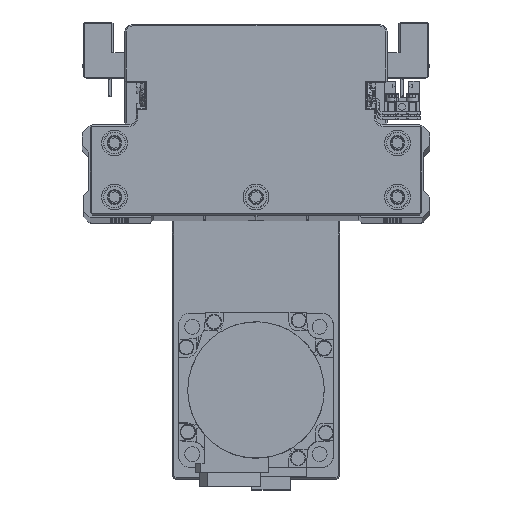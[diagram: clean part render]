
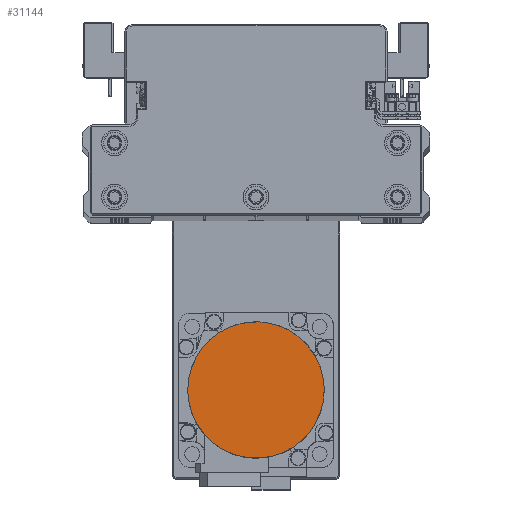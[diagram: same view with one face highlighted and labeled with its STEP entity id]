
A CAD part, top view. The second image highlights one B-rep face of the part: STEP entity #31144.
In plain terms, the highlighted planar face has unit normal (0, 0, 1) as drawn and (0, 0, -1) by its records, which use the part's own axes.
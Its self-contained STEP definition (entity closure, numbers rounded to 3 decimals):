
#1406 = EDGE_LOOP ( 'NONE', ( #1432, #33374 ) ) ;
#1432 = ORIENTED_EDGE ( 'NONE', *, *, #6188, .F. ) ;
#2046 = EDGE_CURVE ( 'NONE', #8513, #20188, #12406, .T. ) ;
#2137 = CARTESIAN_POINT ( 'NONE',  ( -11.744, -23.819, -109.7 ) ) ;
#2301 = FACE_OUTER_BOUND ( 'NONE', #1406, .T. ) ;
#2355 = CARTESIAN_POINT ( 'NONE',  ( 19.965, -17.512, -109.7 ) ) ;
#2724 = CARTESIAN_POINT ( 'NONE',  ( 23.819, 11.744, -109.7 ) ) ;
#2929 = CARTESIAN_POINT ( 'NONE',  ( -3.469, 26.329, -109.7 ) ) ;
#3145 = CARTESIAN_POINT ( 'NONE',  ( -26.329, 3.469, -109.7 ) ) ;
#3766 = CARTESIAN_POINT ( 'NONE',  ( -26.5, 0., -109.7 ) ) ;
#5271 = CARTESIAN_POINT ( 'NONE',  ( -17.512, -19.965, -109.7 ) ) ;
#5471 = CARTESIAN_POINT ( 'NONE',  ( 13.28, -22.998, -109.7 ) ) ;
#5848 = CARTESIAN_POINT ( 'NONE',  ( 26.329, 3.469, -109.7 ) ) ;
#6055 = CARTESIAN_POINT ( 'NONE',  ( 3.469, 26.329, -109.7 ) ) ;
#6188 = EDGE_CURVE ( 'NONE', #20188, #8513, #34516, .T. ) ;
#6257 = CARTESIAN_POINT ( 'NONE',  ( -23.819, 11.744, -109.7 ) ) ;
#8400 = CARTESIAN_POINT ( 'NONE',  ( -22.998, -13.28, -109.7 ) ) ;
#8513 = VERTEX_POINT ( 'NONE', #3766 ) ;
#8607 = CARTESIAN_POINT ( 'NONE',  ( 6.871, -25.652, -109.7 ) ) ;
#8801 = CARTESIAN_POINT ( 'NONE',  ( 26.5, -1.734, -109.7 ) ) ;
#9175 = CARTESIAN_POINT ( 'NONE',  ( 11.744, 23.819, -109.7 ) ) ;
#9385 = CARTESIAN_POINT ( 'NONE',  ( -19.965, 17.512, -109.7 ) ) ;
#11519 = CARTESIAN_POINT ( 'NONE',  ( -25.652, -6.871, -109.7 ) ) ;
#11734 = CARTESIAN_POINT ( 'NONE',  ( -1.734, -26.5, -109.7 ) ) ;
#11886 = DIRECTION ( 'NONE',  ( 1., 0., 0. ) ) ;
#11939 = CARTESIAN_POINT ( 'NONE',  ( 25.147, -8.539, -109.7 ) ) ;
#12295 = CARTESIAN_POINT ( 'NONE',  ( 17.512, 19.965, -109.7 ) ) ;
#12406 = B_SPLINE_CURVE_WITH_KNOTS ( 'NONE', 3,
 ( #14658, #27386, #40100, #11519, #24253, #36994, #8400, #21137, #33876, #5271, #17990, #30745, #2137, #14851, #27587, #40307, #11734, #24469, #37199, #8607, #21339, #34074, #5471, #18187, #30946, #2355, #15065, #27807, #40524, #11939, #24676, #37394, #8801, #21537 ),
 .UNSPECIFIED., .F., .F.,
 ( 4, 2, 2, 2, 2, 2, 2, 2, 2, 2, 2, 2, 2, 2, 2, 2, 4 ),
 ( 0., 0.063, 0.125, 0.188, 0.25, 0.312, 0.375, 0.437, 0.5, 0.562, 0.625, 0.687, 0.75, 0.813, 0.875, 0.938, 1. ),
 .UNSPECIFIED. ) ;
#12508 = CARTESIAN_POINT ( 'NONE',  ( -13.28, 22.998, -109.7 ) ) ;
#14658 = CARTESIAN_POINT ( 'NONE',  ( -26.5, 0., -109.7 ) ) ;
#14851 = CARTESIAN_POINT ( 'NONE',  ( -8.539, -25.147, -109.7 ) ) ;
#15013 = PLANE ( 'NONE',  #24462 ) ;
#15065 = CARTESIAN_POINT ( 'NONE',  ( 21.07, -16.165, -109.7 ) ) ;
#15422 = CARTESIAN_POINT ( 'NONE',  ( 22.998, 13.28, -109.7 ) ) ;
#15635 = CARTESIAN_POINT ( 'NONE',  ( -6.871, 25.652, -109.7 ) ) ;
#15850 = CARTESIAN_POINT ( 'NONE',  ( -26.5, 1.734, -109.7 ) ) ;
#17990 = CARTESIAN_POINT ( 'NONE',  ( -16.165, -21.07, -109.7 ) ) ;
#18187 = CARTESIAN_POINT ( 'NONE',  ( 16.165, -21.07, -109.7 ) ) ;
#18569 = CARTESIAN_POINT ( 'NONE',  ( 25.652, 6.871, -109.7 ) ) ;
#18766 = CARTESIAN_POINT ( 'NONE',  ( 1.734, 26.5, -109.7 ) ) ;
#18987 = CARTESIAN_POINT ( 'NONE',  ( -25.147, 8.539, -109.7 ) ) ;
#20188 = VERTEX_POINT ( 'NONE', #36099 ) ;
#21137 = CARTESIAN_POINT ( 'NONE',  ( -21.07, -16.165, -109.7 ) ) ;
#21339 = CARTESIAN_POINT ( 'NONE',  ( 8.539, -25.147, -109.7 ) ) ;
#21537 = CARTESIAN_POINT ( 'NONE',  ( 26.5, 0., -109.7 ) ) ;
#21708 = CARTESIAN_POINT ( 'NONE',  ( 26.5, 0., -109.7 ) ) ;
#21915 = CARTESIAN_POINT ( 'NONE',  ( 8.539, 25.147, -109.7 ) ) ;
#22119 = CARTESIAN_POINT ( 'NONE',  ( -21.07, 16.165, -109.7 ) ) ;
#24253 = CARTESIAN_POINT ( 'NONE',  ( -25.147, -8.539, -109.7 ) ) ;
#24462 = AXIS2_PLACEMENT_3D ( 'NONE', #27754, #40470, #11886 ) ;
#24469 = CARTESIAN_POINT ( 'NONE',  ( 1.734, -26.5, -109.7 ) ) ;
#24676 = CARTESIAN_POINT ( 'NONE',  ( 25.652, -6.871, -109.7 ) ) ;
#25049 = CARTESIAN_POINT ( 'NONE',  ( 16.165, 21.07, -109.7 ) ) ;
#25256 = CARTESIAN_POINT ( 'NONE',  ( -16.165, 21.07, -109.7 ) ) ;
#27386 = CARTESIAN_POINT ( 'NONE',  ( -26.5, -1.734, -109.7 ) ) ;
#27587 = CARTESIAN_POINT ( 'NONE',  ( -6.871, -25.652, -109.7 ) ) ;
#27754 = CARTESIAN_POINT ( 'NONE',  ( 0., 0., -109.7 ) ) ;
#27807 = CARTESIAN_POINT ( 'NONE',  ( 22.998, -13.28, -109.7 ) ) ;
#28165 = CARTESIAN_POINT ( 'NONE',  ( 21.07, 16.165, -109.7 ) ) ;
#28384 = CARTESIAN_POINT ( 'NONE',  ( -8.539, 25.147, -109.7 ) ) ;
#28598 = CARTESIAN_POINT ( 'NONE',  ( -26.5, 0., -109.7 ) ) ;
#30745 = CARTESIAN_POINT ( 'NONE',  ( -13.28, -22.998, -109.7 ) ) ;
#30946 = CARTESIAN_POINT ( 'NONE',  ( 17.512, -19.965, -109.7 ) ) ;
#31144 = ADVANCED_FACE ( 'NONE', ( #2301 ), #15013, .F. ) ;
#31319 = CARTESIAN_POINT ( 'NONE',  ( 25.147, 8.539, -109.7 ) ) ;
#31513 = CARTESIAN_POINT ( 'NONE',  ( -1.734, 26.5, -109.7 ) ) ;
#31731 = CARTESIAN_POINT ( 'NONE',  ( -25.652, 6.871, -109.7 ) ) ;
#33374 = ORIENTED_EDGE ( 'NONE', *, *, #2046, .F. ) ;
#33876 = CARTESIAN_POINT ( 'NONE',  ( -19.965, -17.512, -109.7 ) ) ;
#34074 = CARTESIAN_POINT ( 'NONE',  ( 11.744, -23.819, -109.7 ) ) ;
#34451 = CARTESIAN_POINT ( 'NONE',  ( 26.5, 1.734, -109.7 ) ) ;
#34516 = B_SPLINE_CURVE_WITH_KNOTS ( 'NONE', 3,
 ( #21708, #34451, #5848, #18569, #31319, #2724, #15422, #28165, #40884, #12295, #25049, #37763, #9175, #21915, #34655, #6055, #18766, #31513, #2929, #15635, #28384, #41100, #12508, #25256, #37971, #9385, #22119, #34854, #6257, #18987, #31731, #3145, #15850, #28598 ),
 .UNSPECIFIED., .F., .F.,
 ( 4, 2, 2, 2, 2, 2, 2, 2, 2, 2, 2, 2, 2, 2, 2, 2, 4 ),
 ( 0., 0.062, 0.125, 0.187, 0.25, 0.312, 0.375, 0.437, 0.5, 0.562, 0.625, 0.687, 0.75, 0.813, 0.875, 0.938, 1. ),
 .UNSPECIFIED. ) ;
#34655 = CARTESIAN_POINT ( 'NONE',  ( 6.871, 25.652, -109.7 ) ) ;
#34854 = CARTESIAN_POINT ( 'NONE',  ( -22.998, 13.28, -109.7 ) ) ;
#36099 = CARTESIAN_POINT ( 'NONE',  ( 26.5, 0., -109.7 ) ) ;
#36994 = CARTESIAN_POINT ( 'NONE',  ( -23.819, -11.744, -109.7 ) ) ;
#37199 = CARTESIAN_POINT ( 'NONE',  ( 3.469, -26.329, -109.7 ) ) ;
#37394 = CARTESIAN_POINT ( 'NONE',  ( 26.329, -3.469, -109.7 ) ) ;
#37763 = CARTESIAN_POINT ( 'NONE',  ( 13.28, 22.998, -109.7 ) ) ;
#37971 = CARTESIAN_POINT ( 'NONE',  ( -17.512, 19.965, -109.7 ) ) ;
#40100 = CARTESIAN_POINT ( 'NONE',  ( -26.329, -3.469, -109.7 ) ) ;
#40307 = CARTESIAN_POINT ( 'NONE',  ( -3.469, -26.329, -109.7 ) ) ;
#40470 = DIRECTION ( 'NONE',  ( 0., 0., 1. ) ) ;
#40524 = CARTESIAN_POINT ( 'NONE',  ( 23.819, -11.744, -109.7 ) ) ;
#40884 = CARTESIAN_POINT ( 'NONE',  ( 19.965, 17.512, -109.7 ) ) ;
#41100 = CARTESIAN_POINT ( 'NONE',  ( -11.744, 23.819, -109.7 ) ) ;
